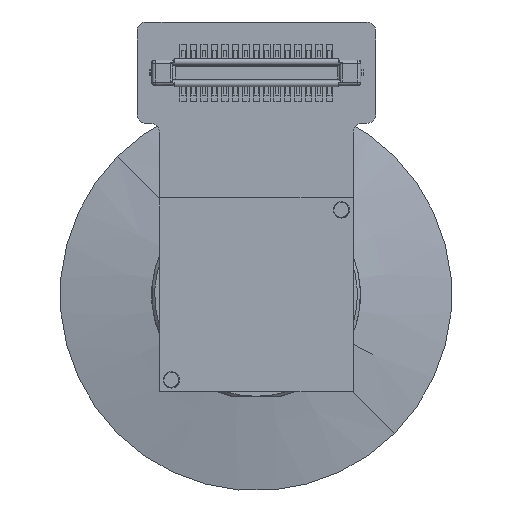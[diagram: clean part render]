
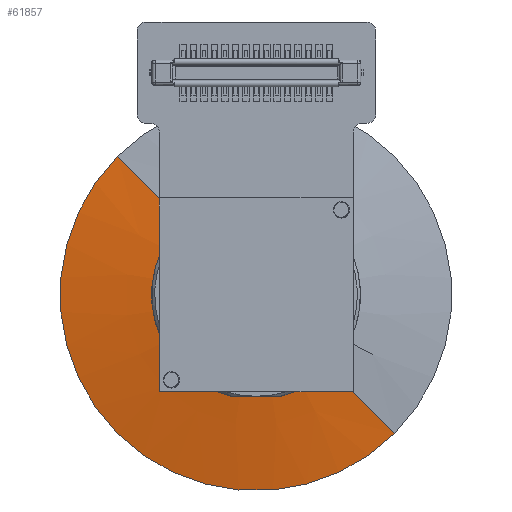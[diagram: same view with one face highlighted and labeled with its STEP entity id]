
A CAD part, front view. The second image highlights one B-rep face of the part: STEP entity #61857.
In plain terms, the highlighted conical face has half-angle 79.4 degrees and reference radius 6.567 mm.
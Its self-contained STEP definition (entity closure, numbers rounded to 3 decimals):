
#61845=AXIS2_PLACEMENT_3D('Cone Axis2P3D',#61842,#61843,#61844) ;
#61849=AXIS2_PLACEMENT_3D('Circle Axis2P3D',#61847,#61848,$) ;
#61815=CARTESIAN_POINT('Line Origine',(-91975.766,0.,491470.958)) ;
#61819=CARTESIAN_POINT('Vertex',(0.524,0.,0.)) ;
#61821=CARTESIAN_POINT('Vertex',(-0.705,0.,6.567)) ;
#61824=CARTESIAN_POINT('Line Origine',(-91975.766,0.,-491470.958)) ;
#61828=CARTESIAN_POINT('Vertex',(-0.705,0.,-6.567)) ;
#61842=CARTESIAN_POINT('Axis2P3D Location',(-0.705,0.,0.)) ;
#61847=CARTESIAN_POINT('Axis2P3D Location',(-0.705,0.,0.)) ;
#61816=DIRECTION('Vector Direction',(-0.184,0.,0.983)) ;
#61825=DIRECTION('Vector Direction',(-0.184,0.,-0.983)) ;
#61843=DIRECTION('Axis2P3D Direction',(-1.,0.,-0.)) ;
#61844=DIRECTION('Axis2P3D XDirection',(0.,0.,-1.)) ;
#61848=DIRECTION('Axis2P3D Direction',(-1.,0.,-0.)) ;
#61817=VECTOR('Line Direction',#61816,1.) ;
#61826=VECTOR('Line Direction',#61825,1.) ;
#61853=ORIENTED_EDGE('',*,*,#61830,.F.) ;
#61854=ORIENTED_EDGE('',*,*,#61823,.T.) ;
#61855=ORIENTED_EDGE('',*,*,#61851,.T.) ;
#61857=ADVANCED_FACE('NONE',(#61856),#61846,.T.) ;
#61850=CIRCLE('generated circle',#61849,6.567) ;
#61846=CONICAL_SURFACE('Cone',#61845,6.567,1.386) ;
#61823=EDGE_CURVE('',#61820,#61822,#61818,.T.) ;
#61830=EDGE_CURVE('',#61820,#61829,#61827,.T.) ;
#61851=EDGE_CURVE('',#61822,#61829,#61850,.F.) ;
#61852=EDGE_LOOP('',(#61853,#61854,#61855)) ;
#61856=FACE_OUTER_BOUND('',#61852,.T.) ;
#61818=LINE('Line',#61815,#61817) ;
#61827=LINE('Line',#61824,#61826) ;
#61820=VERTEX_POINT('',#61819) ;
#61822=VERTEX_POINT('',#61821) ;
#61829=VERTEX_POINT('',#61828) ;
